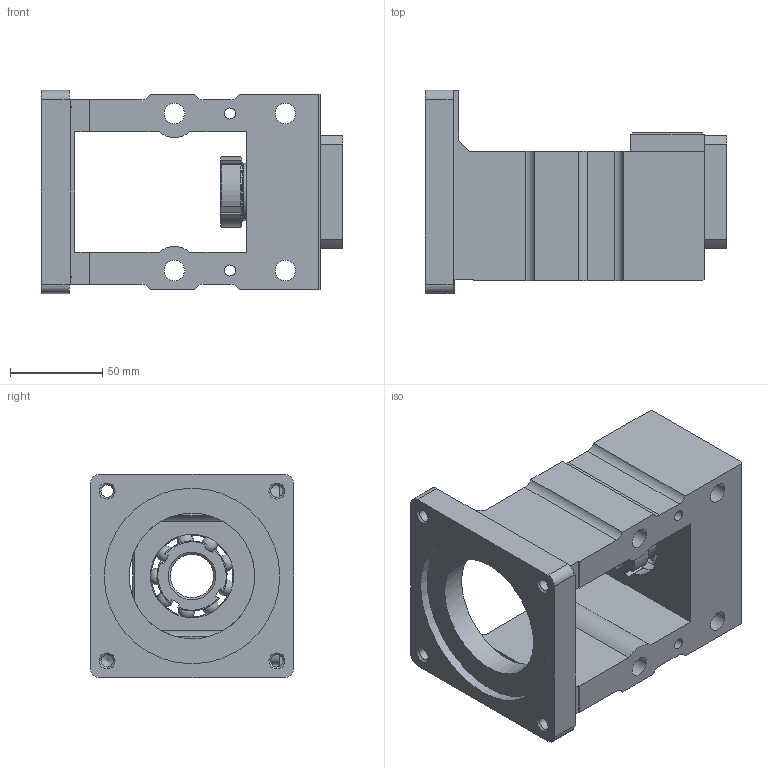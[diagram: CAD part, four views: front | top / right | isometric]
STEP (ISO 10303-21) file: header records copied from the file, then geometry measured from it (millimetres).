
FILE_DESCRIPTION(('STEP AP214'), '1');
FILE_NAME('HM25-110C5 - Êðîíøòåéí HM25', '', ('UNSPECIFIED'), ('UNSPECIFIED'), 'ASCON STEP Converter 1.6', 'ASCON Math Kernel', '');
FILE_SCHEMA(('AUTOMOTIVE_DESIGN { 1 0 10303 214 3 1 1}'));
Length unit declared in the file: millimetre
Products named in the file (1): HM25-110C5
Bounding box: 163 x 110 x 110 mm (x, y, z)
Volume: 643028 mm3; surface area: 149722.4 mm2
Topology: 31 solids, 31 shells, 321 faces, 784 edges, 506 vertices
Faces by surface type: plane 148, cylinder 82, cone 49, torus 24, sphere 18
Full cylindrical faces by diameter (mm): 4.917 x4, 5 x4, 6 x6, 6.5 x2, 6.647 x4, 7 x4, 10 x4, 11 x8, 18 x4, 23.376 x1, 25 x4, 31 x2, 32 x1, 32.898 x4, 44.102 x2, 45 x2, 52 x4, 68 x1, 95 x1
Entity records: 12213 total; most frequent: CARTESIAN_POINT 2481, DIRECTION 1493, ORIENTED_EDGE 1196, AXIS2_PLACEMENT_3D 619, EDGE_CURVE 598, EDGE_LOOP 487, VERTEX_POINT 461, COLOUR_RGB 350
